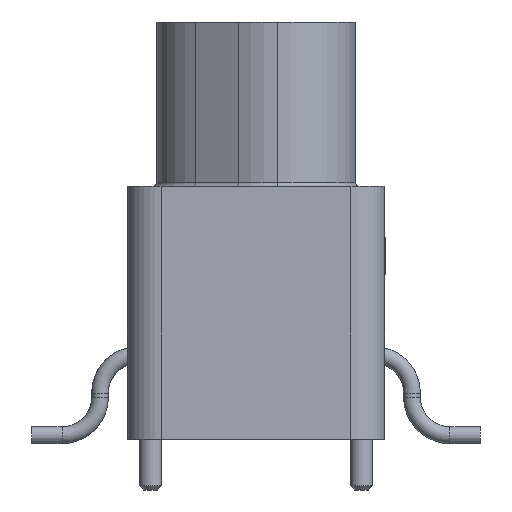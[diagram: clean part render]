
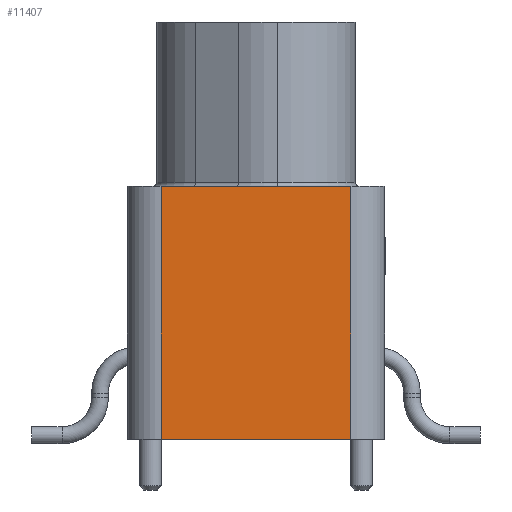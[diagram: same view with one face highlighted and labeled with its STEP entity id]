
A CAD part, left-side view. The second image highlights one B-rep face of the part: STEP entity #11407.
In plain terms, the highlighted planar face has unit normal (-1, 0, 0).
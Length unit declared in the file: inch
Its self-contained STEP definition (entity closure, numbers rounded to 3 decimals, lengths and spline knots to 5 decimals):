
#4257 = DIRECTION ( 'NONE',  ( 0., 1., 0. ) ) ;
#8739 = DIRECTION ( 'NONE',  ( -1., 0., 0. ) ) ;
#11407 = ADVANCED_FACE ( 'NONE', ( #51989 ), #14071, .T. ) ;
#14071 = PLANE ( 'NONE',  #18226 ) ;
#14230 = VERTEX_POINT ( 'NONE', #18476 ) ;
#15240 = CARTESIAN_POINT ( 'NONE',  ( -0.5875, -0.1125, 0.04 ) ) ;
#15903 = ORIENTED_EDGE ( 'NONE', *, *, #28118, .T. ) ;
#16605 = ORIENTED_EDGE ( 'NONE', *, *, #25722, .F. ) ;
#16643 = LINE ( 'NONE', #45502, #39256 ) ;
#17436 = VERTEX_POINT ( 'NONE', #58438 ) ;
#18226 = AXIS2_PLACEMENT_3D ( 'NONE', #37270, #8739, #18428 ) ;
#18428 = DIRECTION ( 'NONE',  ( 0., 0., 1. ) ) ;
#18476 = CARTESIAN_POINT ( 'NONE',  ( -0.5875, 0.1125, 0.04 ) ) ;
#20292 = DIRECTION ( 'NONE',  ( 0., 1., 0. ) ) ;
#20440 = DIRECTION ( 'NONE',  ( 0., 0., -1. ) ) ;
#20589 = LINE ( 'NONE', #54392, #59510 ) ;
#22759 = EDGE_CURVE ( 'NONE', #47287, #14230, #58459, .T. ) ;
#25722 = EDGE_CURVE ( 'NONE', #47287, #17436, #16643, .T. ) ;
#27666 = CARTESIAN_POINT ( 'NONE',  ( -0.5875, 0.1125, -0.26 ) ) ;
#27699 = VECTOR ( 'NONE', #20292, 39.37008 ) ;
#28118 = EDGE_CURVE ( 'NONE', #14230, #28321, #20589, .T. ) ;
#28321 = VERTEX_POINT ( 'NONE', #27666 ) ;
#30414 = LINE ( 'NONE', #44820, #57706 ) ;
#37270 = CARTESIAN_POINT ( 'NONE',  ( -0.5875, -0.1125, 0.04 ) ) ;
#39256 = VECTOR ( 'NONE', #20440, 39.37008 ) ;
#44820 = CARTESIAN_POINT ( 'NONE',  ( -0.5875, -0.1125, -0.26 ) ) ;
#45502 = CARTESIAN_POINT ( 'NONE',  ( -0.5875, -0.1125, 0.04 ) ) ;
#45883 = CARTESIAN_POINT ( 'NONE',  ( -0.5875, -0.1125, 0.04 ) ) ;
#47287 = VERTEX_POINT ( 'NONE', #45883 ) ;
#48505 = EDGE_LOOP ( 'NONE', ( #15903, #61192, #16605, #48888 ) ) ;
#48888 = ORIENTED_EDGE ( 'NONE', *, *, #22759, .T. ) ;
#51989 = FACE_OUTER_BOUND ( 'NONE', #48505, .T. ) ;
#54392 = CARTESIAN_POINT ( 'NONE',  ( -0.5875, 0.1125, 0.04 ) ) ;
#54987 = DIRECTION ( 'NONE',  ( 0., 0., -1. ) ) ;
#57706 = VECTOR ( 'NONE', #4257, 39.37008 ) ;
#58438 = CARTESIAN_POINT ( 'NONE',  ( -0.5875, -0.1125, -0.26 ) ) ;
#58459 = LINE ( 'NONE', #15240, #27699 ) ;
#58505 = EDGE_CURVE ( 'NONE', #17436, #28321, #30414, .T. ) ;
#59510 = VECTOR ( 'NONE', #54987, 39.37008 ) ;
#61192 = ORIENTED_EDGE ( 'NONE', *, *, #58505, .F. ) ;
